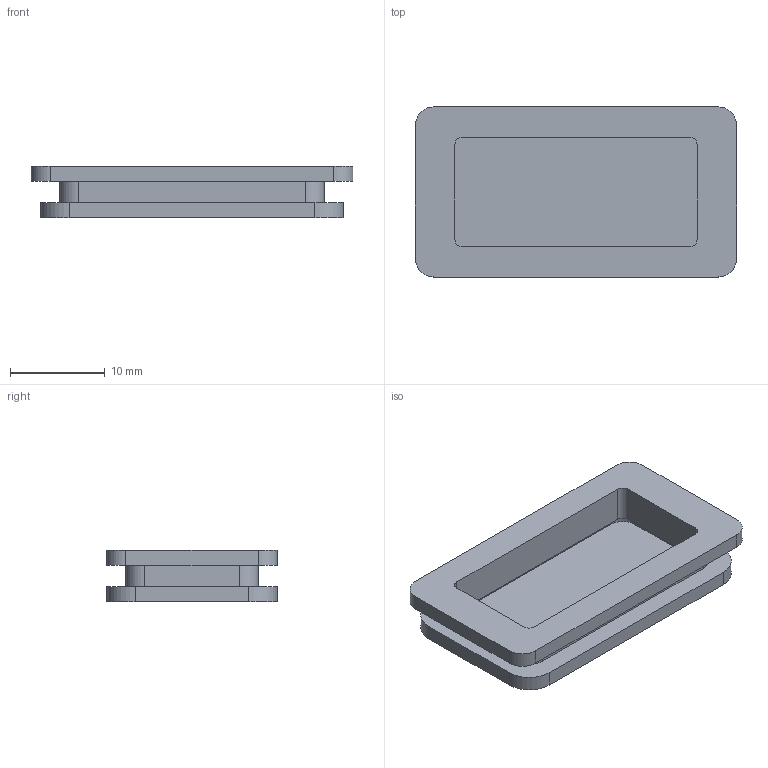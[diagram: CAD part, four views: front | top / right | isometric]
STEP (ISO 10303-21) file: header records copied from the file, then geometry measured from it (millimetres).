
FILE_DESCRIPTION(('Open CASCADE Model'),'2;1');
FILE_NAME('Open CASCADE Shape Model','2026-11-08T19:31:44',('Author'),( 'Open CASCADE'),'Open CASCADE STEP processor 7.8','Open CASCADE 7.8' ,'Unknown');
FILE_SCHEMA(('AUTOMOTIVE_DESIGN { 1 0 10303 214 1 1 1 1 }'));
Length unit declared in the file: millimetre
Products named in the file (1): Open CASCADE STEP translator 7.8 4
Bounding box: 34 x 18 x 5.45 mm (x, y, z)
Volume: 1172.8 mm3; surface area: 2598.8 mm2
Topology: 1 solids, 1 shells, 46 faces, 120 edges, 80 vertices
Faces by surface type: plane 26, cylinder 20
Entity records: 2974 total; most frequent: CARTESIAN_POINT 543, DIRECTION 458, LINE 248, VECTOR 248, ORIENTED_EDGE 240, PCURVE 240, DEFINITIONAL_REPRESENTATION 240, EDGE_CURVE 120
